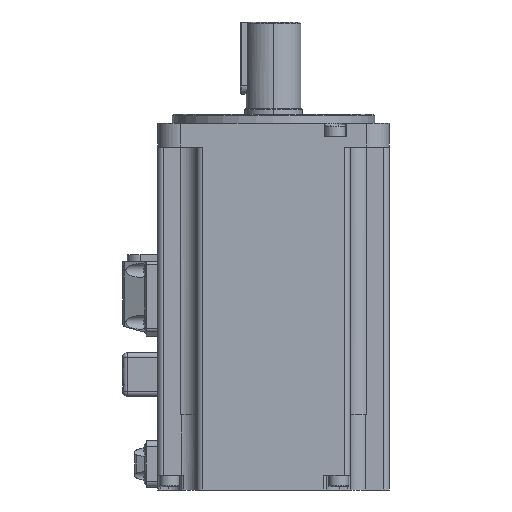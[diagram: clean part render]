
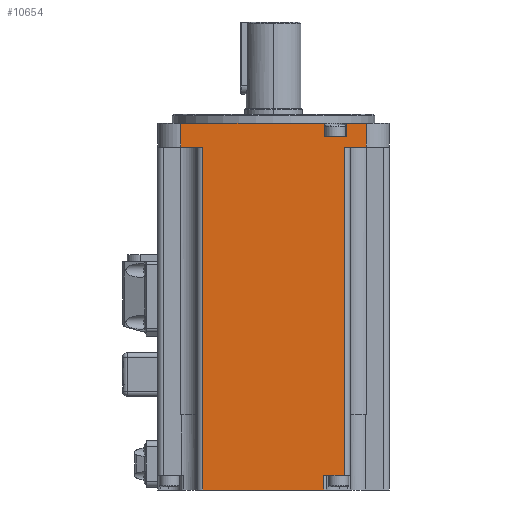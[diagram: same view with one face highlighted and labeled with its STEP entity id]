
A CAD part, left-side view. The second image highlights one B-rep face of the part: STEP entity #10654.
In plain terms, the highlighted planar face has unit normal (-1, 0, 0).
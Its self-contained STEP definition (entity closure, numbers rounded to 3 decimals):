
#184=DIRECTION('',(0.,0.,1.));
#185=VECTOR('',#184,8.3);
#186=CARTESIAN_POINT('',(-40.1,32.1,92.7));
#187=LINE('',#186,#185);
#188=DIRECTION('',(0.,-1.,0.));
#189=VECTOR('',#188,49.724);
#190=CARTESIAN_POINT('',(-40.1,32.1,101.));
#191=LINE('',#190,#189);
#192=DIRECTION('',(0.,-1.,0.));
#193=VECTOR('',#192,6.976);
#194=CARTESIAN_POINT('',(-40.1,-25.124,101.));
#195=LINE('',#194,#193);
#196=DIRECTION('',(0.,1.,0.));
#197=VECTOR('',#196,7.1);
#198=CARTESIAN_POINT('',(-40.1,-24.5,-20.9));
#199=LINE('',#198,#197);
#200=DIRECTION('',(0.,0.,-1.));
#201=VECTOR('',#200,5.1);
#202=CARTESIAN_POINT('',(-40.1,-17.4,-20.9));
#203=LINE('',#202,#201);
#204=DIRECTION('',(0.,1.,0.));
#205=VECTOR('',#204,41.9);
#206=CARTESIAN_POINT('',(-40.1,-17.4,-26.));
#207=LINE('',#206,#205);
#208=DIRECTION('',(0.,0.,-1.));
#209=VECTOR('',#208,118.7);
#210=CARTESIAN_POINT('',(-40.1,24.5,92.7));
#211=LINE('',#210,#209);
#308=DIRECTION('',(0.,0.,1.));
#309=VECTOR('',#308,113.6);
#310=CARTESIAN_POINT('',(-40.1,-24.5,-20.9));
#311=LINE('',#310,#309);
#327=DIRECTION('',(0.,-1.,0.));
#328=VECTOR('',#327,7.6);
#329=CARTESIAN_POINT('',(-40.1,-24.5,92.7));
#330=LINE('',#329,#328);
#374=DIRECTION('',(0.,0.,1.));
#375=VECTOR('',#374,8.3);
#376=CARTESIAN_POINT('',(-40.1,-32.1,92.7));
#377=LINE('',#376,#375);
#6099=DIRECTION('',(0.,-1.,0.));
#6100=VECTOR('',#6099,7.6);
#6101=CARTESIAN_POINT('',(-40.1,32.1,92.7));
#6102=LINE('',#6101,#6100);
#7117=DIRECTION('',(0.,0.,1.));
#7118=VECTOR('',#7117,4.7);
#7119=CARTESIAN_POINT('',(-40.1,-17.624,96.3));
#7120=LINE('',#7119,#7118);
#7129=DIRECTION('',(0.,0.,-1.));
#7130=VECTOR('',#7129,4.7);
#7131=CARTESIAN_POINT('',(-40.1,-25.124,101.));
#7132=LINE('',#7131,#7130);
#7146=DIRECTION('',(0.,1.,0.));
#7147=VECTOR('',#7146,7.5);
#7148=CARTESIAN_POINT('',(-40.1,-25.124,96.3));
#7149=LINE('',#7148,#7147);
#8886=CARTESIAN_POINT('',(-40.1,24.5,-26.));
#8888=VERTEX_POINT('',#8886);
#8889=CARTESIAN_POINT('',(-40.1,-17.4,-26.));
#8890=VERTEX_POINT('',#8889);
#8910=CARTESIAN_POINT('',(-40.1,-17.4,-20.9));
#8912=VERTEX_POINT('',#8910);
#8913=CARTESIAN_POINT('',(-40.1,-24.5,-20.9));
#8915=VERTEX_POINT('',#8913);
#9537=CARTESIAN_POINT('',(-40.1,32.1,101.));
#9539=VERTEX_POINT('',#9537);
#9562=CARTESIAN_POINT('',(-40.1,-32.1,101.));
#9564=VERTEX_POINT('',#9562);
#9585=CARTESIAN_POINT('',(-40.1,-17.624,101.));
#9586=VERTEX_POINT('',#9585);
#9587=CARTESIAN_POINT('',(-40.1,-25.124,101.));
#9588=VERTEX_POINT('',#9587);
#9589=CARTESIAN_POINT('',(-40.1,32.1,92.7));
#9590=VERTEX_POINT('',#9589);
#9591=CARTESIAN_POINT('',(-40.1,-17.624,96.3));
#9592=VERTEX_POINT('',#9591);
#9595=CARTESIAN_POINT('',(-40.1,-25.124,96.3));
#9596=VERTEX_POINT('',#9595);
#9651=CARTESIAN_POINT('',(-40.1,24.5,92.7));
#9653=VERTEX_POINT('',#9651);
#9704=CARTESIAN_POINT('',(-40.1,-24.5,92.7));
#9706=VERTEX_POINT('',#9704);
#9707=CARTESIAN_POINT('',(-40.1,-32.1,92.7));
#9708=VERTEX_POINT('',#9707);
#10622=CARTESIAN_POINT('',(-40.1,0.,-17.));
#10623=DIRECTION('',(1.,0.,0.));
#10624=DIRECTION('',(0.,1.,0.));
#10625=AXIS2_PLACEMENT_3D('',#10622,#10623,#10624);
#10626=PLANE('',#10625);
#10628=ORIENTED_EDGE('',*,*,#10627,.F.);
#10630=ORIENTED_EDGE('',*,*,#10629,.F.);
#10631=ORIENTED_EDGE('',*,*,#10613,.T.);
#10632=ORIENTED_EDGE('',*,*,#10572,.T.);
#10634=ORIENTED_EDGE('',*,*,#10633,.F.);
#10636=ORIENTED_EDGE('',*,*,#10635,.F.);
#10638=ORIENTED_EDGE('',*,*,#10637,.F.);
#10639=ORIENTED_EDGE('',*,*,#10564,.T.);
#10641=ORIENTED_EDGE('',*,*,#10640,.F.);
#10643=ORIENTED_EDGE('',*,*,#10642,.F.);
#10645=ORIENTED_EDGE('',*,*,#10644,.F.);
#10647=ORIENTED_EDGE('',*,*,#10646,.T.);
#10649=ORIENTED_EDGE('',*,*,#10648,.T.);
#10651=ORIENTED_EDGE('',*,*,#10650,.T.);
#10652=EDGE_LOOP('',(#10628,#10630,#10631,#10632,#10634,#10636,#10638,#10639,
#10641,#10643,#10645,#10647,#10649,#10651));
#10653=FACE_OUTER_BOUND('',#10652,.F.);
#10654=ADVANCED_FACE('',(#10653),#10626,.F.);
#10564=EDGE_CURVE('',#9588,#9564,#195,.T.);
#10572=EDGE_CURVE('',#9539,#9586,#191,.T.);
#10613=EDGE_CURVE('',#9590,#9539,#187,.T.);
#10627=EDGE_CURVE('',#9653,#8888,#211,.T.);
#10629=EDGE_CURVE('',#9590,#9653,#6102,.T.);
#10633=EDGE_CURVE('',#9592,#9586,#7120,.T.);
#10635=EDGE_CURVE('',#9596,#9592,#7149,.T.);
#10637=EDGE_CURVE('',#9588,#9596,#7132,.T.);
#10640=EDGE_CURVE('',#9708,#9564,#377,.T.);
#10642=EDGE_CURVE('',#9706,#9708,#330,.T.);
#10644=EDGE_CURVE('',#8915,#9706,#311,.T.);
#10646=EDGE_CURVE('',#8915,#8912,#199,.T.);
#10648=EDGE_CURVE('',#8912,#8890,#203,.T.);
#10650=EDGE_CURVE('',#8890,#8888,#207,.T.);
